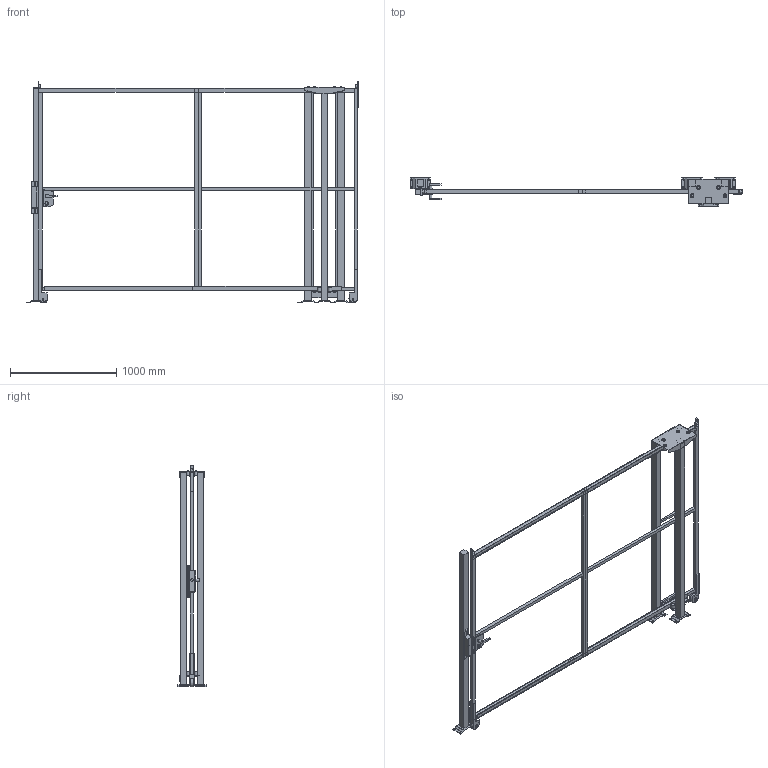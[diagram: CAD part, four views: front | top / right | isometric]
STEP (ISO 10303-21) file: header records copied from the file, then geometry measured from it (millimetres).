
FILE_DESCRIPTION(/* description */ (''),/* implementation_level */ '2;1');
FILE_NAME(/* name */ 'C:\SafeGuarding\ELABORATI\KLADKOUGAMMA_2025-03-20-13-56-30.stp',/* time_stamp */ '2025-03-20T13:56:32+01:00',/* author */ ('admin'),/* organization */ (''),/* preprocessor_version */ 'ST-DEVELOPER v18.1',/* originating_system */ 'AutoCAD Mechanical',/* authorisation */ '');
FILE_SCHEMA (('AUTOMOTIVE_DESIGN { 1 0 10303 214 3 1 1 }'));
Length unit declared in the file: millimetre
Products named in the file (4): Product; R_VFPA.REPE30.15001900; R_VFPA.REPE20.02501900; P_VFMA.V260SDU.2020
Assembly tree (7 placements, depth 2):
  Product
    R_VFPA.REPE30.15001900  x2
    P_VFMA.V260SDU.2020  x4
    R_VFPA.REPE20.02501900
Bounding box: 3126 x 264 x 2090.02 mm (x, y, z)
Volume: 50041157.4 mm3; surface area: 6752688.9 mm2
Topology: 68 solids, 68 shells, 608 faces, 1777 edges, 1779 vertices
Faces by surface type: plane 530, cylinder 74, bspline 4
Full cylindrical faces by diameter (mm): 9 x4, 11 x16, 13 x4, 18 x1, 25 x2, 25.398 x2, 30 x6, 36 x8, 80 x2
Entity records: 16861 total; most frequent: CARTESIAN_POINT 4370, DIRECTION 2494, ORIENTED_EDGE 2254, EDGE_CURVE 1127, LINE 1104, VECTOR 1104, VERTEX_POINT 758, AXIS2_PLACEMENT_3D 695
